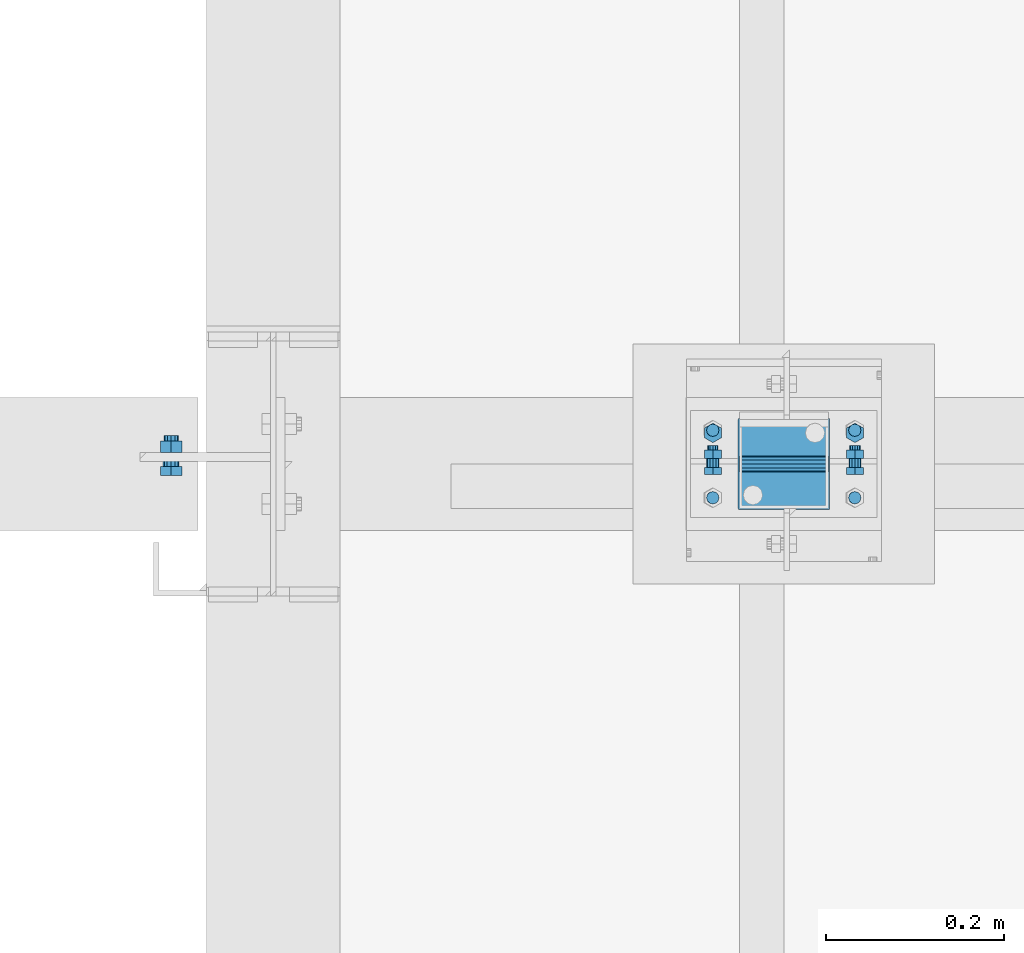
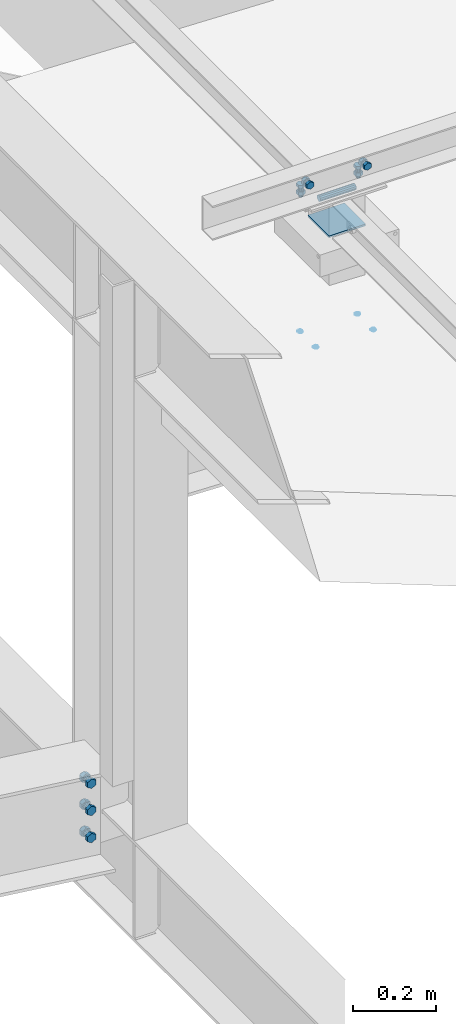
# One storey, part 325 of 3134: 6 mechanical fasteners, 4 elements without a shape of their own.
"""IFC2X3 building model written with IfcOpenShell, lengths in millimetres."""

import ifcopenshell
import ifcopenshell.guid

model = None  # the IFC model being written
_history = None  # IfcOwnerHistory: only IFC2X3 demands one
_inside = {}  # id of a spatial element -> (the spatial element, [elements in it])
_under = {}  # id of a project, library or spatial element -> (it, [spatial elements below it])
_declared = {}  # id of a project -> (the project, [libraries it declares])
_typed = {}  # id of a type object -> (the type object, [elements of that type])
_made_of = {}  # id of a material, layer set ... -> (it, [elements and type objects made of it])


def new_model(schema):
    """Start an empty IFC model of exactly this schema.

    Asked for "IFC4X3", IfcOpenShell would pick the latest addendum, in which some entities
    have other attributes; the version numbers below select the first issue.
    IFC2X3 requires an IfcOwnerHistory on every rooted entity: one is made here for all.
    """
    global model, _history
    if schema == "IFC4X3":
        model = ifcopenshell.file(schema_version=(4, 3, 0, 0))
    else:
        model = ifcopenshell.file(schema=schema)
    _inside.clear()
    _under.clear()
    _declared.clear()
    _typed.clear()
    _made_of.clear()
    _history = None
    if model.schema == "IFC2X3":
        org = make("IfcOrganization", Name="unknown")
        user = make(
            "IfcPersonAndOrganization",
            ThePerson=make("IfcPerson", FamilyName="unknown"),
            TheOrganization=org,
        )
        app = make(
            "IfcApplication",
            ApplicationDeveloper=org,
            Version="unknown",
            ApplicationFullName="unknown",
            ApplicationIdentifier="unknown",
        )
        _history = make(
            "IfcOwnerHistory",
            OwningUser=user,
            OwningApplication=app,
            ChangeAction="ADDED",
            CreationDate=0,
        )
    return model


def make(cls, **values):
    """One entity of the class cls with the attributes given. An attribute that is None is left unset."""
    return model.create_entity(
        cls, **{name: value for name, value in values.items() if value is not None}
    )


def rooted(cls, **values):
    """An entity with a GlobalId (a new one), such as an element, a storey or a relation."""
    return make(cls, GlobalId=ifcopenshell.guid.new(), OwnerHistory=_history, **values)


def si_unit(unit_type, name, prefix=None):
    """IfcSIUnit, for example si_unit("LENGTHUNIT", "METRE", prefix="MILLI")."""
    return make("IfcSIUnit", UnitType=unit_type, Prefix=prefix, Name=name)


def assignment(units):
    """IfcUnitAssignment: the units of a project."""
    return None if units is None else make("IfcUnitAssignment", Units=units)


def point(xyz):
    """IfcCartesianPoint."""
    return None if xyz is None else make("IfcCartesianPoint", Coordinates=xyz)


def direction(xyz):
    """IfcDirection."""
    return None if xyz is None else make("IfcDirection", DirectionRatios=xyz)


def frame(location, z_axis=None, x_axis=None):
    """IfcAxis2Placement3D, a coordinate frame: its origin and axes. An axis left out is left unset."""
    return make(
        "IfcAxis2Placement3D",
        Location=point(location),
        Axis=direction(z_axis),
        RefDirection=direction(x_axis),
    )


def origin_with_axes():
    """The frame at (0, 0, 0) with the z axis (0, 0, 1) and the x axis (1, 0, 0) written out."""
    return frame((0.0, 0.0, 0.0), z_axis=(0.0, 0.0, 1.0), x_axis=(1.0, 0.0, 0.0))


def place(relative_to, where):
    """IfcLocalPlacement: puts the frame where relative to a parent placement (None: the world)."""
    return make(
        "IfcLocalPlacement", PlacementRelTo=relative_to, RelativePlacement=where
    )


def context(
    kind, dimensions, precision=None, world=None, true_north=None, identifier=None
):
    """IfcGeometricRepresentationContext, for example the 3D "Model" context."""
    return make(
        "IfcGeometricRepresentationContext",
        ContextIdentifier=identifier,
        ContextType=kind,
        CoordinateSpaceDimension=dimensions,
        Precision=precision,
        WorldCoordinateSystem=world,
        TrueNorth=true_north,
    )


def subcontext(parent, identifier, kind, view, scale=None):
    """IfcGeometricRepresentationSubContext, for example "Body" below "Model"."""
    return make(
        "IfcGeometricRepresentationSubContext",
        ContextIdentifier=identifier,
        ContextType=kind,
        ParentContext=parent,
        TargetScale=scale,
        TargetView=view,
    )


def project(units=None, contexts=None):
    """IfcProject with its units and contexts."""
    return rooted(
        "IfcProject",
        Name="project",
        RepresentationContexts=contexts,
        UnitsInContext=assignment(units),
    )


def spatial(cls, under=None, at=None, **own):
    """A site, building, storey or space (cls), placed at a placement, below another one or the project."""
    s = rooted(cls, ObjectPlacement=at, **own)
    if under is not None:
        _under.setdefault(under.id(), (under, []))[1].append(s)
    return s


def faces_of(points, faces, orient=None, outer=None):
    """IfcFace entities. A face is a list of loops; a loop is a list of indices into points, from 0.

    orient and outer hold one flag for each loop. By default every Orientation is true, the
    first loop of a face is its IfcFaceOuterBound and the others are IfcFaceBound.
    """
    made = []
    for i, loops in enumerate(faces):
        bounds = []
        for j, loop in enumerate(loops):
            is_outer = j == 0 if outer is None else outer[i][j]
            bounds.append(
                make(
                    "IfcFaceOuterBound" if is_outer else "IfcFaceBound",
                    Bound=make("IfcPolyLoop", Polygon=[points[k] for k in loop]),
                    Orientation=True if orient is None else orient[i][j],
                )
            )
        made.append(make("IfcFace", Bounds=bounds))
    return made


def faceted_brep(points, faces, orient=None, outer=None, voids=None):
    """IfcFacetedBrep: a solid bounded by flat faces; with voids (closed shells), ...WithVoids."""
    shared = [point(p) for p in points]
    hull = make("IfcClosedShell", CfsFaces=faces_of(shared, faces, orient, outer))
    if voids is None:
        return make("IfcFacetedBrep", Outer=hull)
    return make(
        "IfcFacetedBrepWithVoids",
        Outer=hull,
        Voids=[
            make(cls, CfsFaces=faces_of(shared, fs, o, b)) for cls, fs, o, b in voids
        ],
    )


def shape(context_of_items, identifier, shape_type, items):
    """IfcShapeRepresentation: the items that make up one representation, for example the "Body"."""
    return make(
        "IfcShapeRepresentation",
        ContextOfItems=context_of_items,
        RepresentationIdentifier=identifier,
        RepresentationType=shape_type,
        Items=items,
    )


def source(mapping_origin, context_of_items, identifier, shape_type, items):
    """IfcRepresentationMap: a shape defined once, which mapped items show again and again."""
    return make(
        "IfcRepresentationMap",
        MappingOrigin=mapping_origin,
        MappedRepresentation=shape(context_of_items, identifier, shape_type, items),
    )


def transform(
    local_origin,
    x_axis=None,
    y_axis=None,
    z_axis=None,
    scale=None,
    scale2=None,
    scale3=None,
    uniform=True,
):
    """IfcCartesianTransformationOperator3D, or its non-uniform kind. x_axis, y_axis, z_axis: its Axis1, 2, 3."""
    if uniform:
        return make(
            "IfcCartesianTransformationOperator3D",
            Axis1=direction(x_axis),
            Axis2=direction(y_axis),
            LocalOrigin=point(local_origin),
            Scale=scale,
            Axis3=direction(z_axis),
        )
    return make(
        "IfcCartesianTransformationOperator3DnonUniform",
        Axis1=direction(x_axis),
        Axis2=direction(y_axis),
        LocalOrigin=point(local_origin),
        Scale=scale,
        Axis3=direction(z_axis),
        Scale2=scale2,
        Scale3=scale3,
    )


def mapped(mapping_source, mapping_target):
    """IfcMappedItem: shows the shape of a source again, moved by a transform."""
    return make(
        "IfcMappedItem", MappingSource=mapping_source, MappingTarget=mapping_target
    )


def material(Name=None, Category=None):
    """IfcMaterial."""
    return make("IfcMaterial", Name=Name, Category=Category)


def made_of(thing, what):
    """Note that an element or type object is made of a material, layer set ...; save() writes the relation."""
    if what is not None:
        _made_of.setdefault(what.id(), (what, []))[1].append(thing)
    return thing


def type_object(cls, material=None, **own):
    """A type object (cls), such as IfcWallType, which elements share."""
    return made_of(rooted(cls, **own), material)


def element(
    cls,
    number,
    at=None,
    inside=None,
    cuts=None,
    type_object=None,
    material=None,
    context=None,
    identifier="Body",
    shape_type=None,
    held_by="IfcProductDefinitionShape",
    body=None,
    shapes=None,
    **own,
):
    """One element of the class cls, such as IfcWall. Its Tag is "e" and its number.

    at: its placement. inside: the storey or other place that contains it. cuts: it is an
    opening in that element (IfcRelVoidsElement). A single representation is given by context,
    identifier, shape_type and body (its items); several are given by shapes. held_by: the class
    of the entity that holds the representations. save() writes the other relations.
    """
    e = rooted(cls, Tag="e%d" % number, ObjectPlacement=at, **own)
    if body is not None:
        shapes = [shape(context, identifier, shape_type, body)]
    if shapes is not None:
        e.Representation = make(held_by, Representations=shapes)
    if inside is not None:
        _inside.setdefault(inside.id(), (inside, []))[1].append(e)
    if cuts is not None:
        rooted(
            "IfcRelVoidsElement", RelatingBuildingElement=cuts, RelatedOpeningElement=e
        )
    if type_object is not None:
        _typed.setdefault(type_object.id(), (type_object, []))[1].append(e)
    return made_of(e, material)


def aggregate(whole, parts):
    """IfcRelAggregates: a whole, such as a stair, and the parts it consists of."""
    return rooted("IfcRelAggregates", RelatingObject=whole, RelatedObjects=parts)


def save(model, path):
    """Write the relations noted so far, then the file.

    IfcRelAggregates (storeys below a building ...), IfcRelContainedInSpatialStructure (elements
    in a storey), IfcRelDefinesByType, IfcRelAssociatesMaterial and IfcRelDeclares: one each for
    every whole, place, type object, material and project.
    """
    for whole, parts in _under.values():
        aggregate(whole, parts)
    for where, things in _inside.values():
        rooted(
            "IfcRelContainedInSpatialStructure",
            RelatedElements=things,
            RelatingStructure=where,
        )
    for kind, things in _typed.values():
        rooted("IfcRelDefinesByType", RelatedObjects=things, RelatingType=kind)
    for what, things in _made_of.values():
        rooted("IfcRelAssociatesMaterial", RelatedObjects=things, RelatingMaterial=what)
    for by, libraries in _declared.values():
        rooted("IfcRelDeclares", RelatingContext=by, RelatedDefinitions=libraries)
    model.write(path)


model = new_model("IFC2X3")

# Units and contexts
model_context = context("Model", 3, precision=1e-05, world=origin_with_axes())
body_context = subcontext(model_context, "Body", "Model", "MODEL_VIEW")
ifc_project = project(units=[si_unit("LENGTHUNIT", "METRE", prefix="MILLI"), si_unit("AREAUNIT", "SQUARE_METRE"), si_unit("VOLUMEUNIT", "CUBIC_METRE"), si_unit("MASSUNIT", "GRAM", prefix="KILO"), si_unit("TIMEUNIT", "SECOND"), si_unit("PLANEANGLEUNIT", "RADIAN"), si_unit("SOLIDANGLEUNIT", "STERADIAN"), si_unit("THERMODYNAMICTEMPERATUREUNIT", "DEGREE_CELSIUS"), si_unit("LUMINOUSINTENSITYUNIT", "LUMEN")], contexts=[model_context])

# Site, building, storey
site_placement = place(None, origin_with_axes())
site = spatial("IfcSite", under=ifc_project, at=site_placement, CompositionType="ELEMENT")
building_placement = place(site_placement, origin_with_axes())
building = spatial("IfcBuilding", under=site, at=building_placement, Name="Undefined", CompositionType="ELEMENT")
storey_placement = place(building_placement, origin_with_axes())
storey = spatial("IfcBuildingStorey", under=building, at=storey_placement, Name="Undefined", CompositionType="ELEMENT", Elevation=0.0)

# Assembly, mechanical fastener
assembly_1_placement = place(storey_placement, origin_with_axes())
assembly_1 = element("IfcElementAssembly", 1, at=assembly_1_placement, inside=storey, AssemblyPlace="NOTDEFINED", PredefinedType="RIGID_FRAME")
ifc_material_1 = material(Name="8.8")
mechanical_fastener_type = type_object("IfcMechanicalFastenerType", Name="Bolt assembly")
shared_shape_1 = source(origin_with_axes(), body_context, "Body", "Brep", [
    faceted_brep([(10.9696551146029, -14.0, 0.0), (5.48482755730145, -14.0, 9.5), (-5.48482755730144, -14.0, 9.5), (-10.9696551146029, -14.0, 1.34339530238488e-15), (-5.48482755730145, -14.0, -9.5), (5.48482755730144, -14.0, -9.50000000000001), (5.48482755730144, -6.0, -9.50000000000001), (-5.48482755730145, -6.0, -9.5), (-10.9696551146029, -6.0, 1.34339530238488e-15), (-5.48482755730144, -6.0, 9.5), (5.48482755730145, -6.0, 9.5), (10.9696551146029, -6.0, 0.0), (6.0, -6.0, 0.0), (5.19615242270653, -6.0, 3.00000000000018), (2.99999999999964, -6.0, 5.19615242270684), (-6.21801588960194e-13, -6.0, 6.0), (-3.00000000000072, -6.0, 5.19615242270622), (-5.19615242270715, -6.0, 2.9999999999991), (-6.0, -6.0, -1.24360317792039e-12), (-5.19615242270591, -6.0, -3.00000000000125), (-2.99999999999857, -6.0, -5.19615242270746), (1.85874342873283e-12, -6.0, -6.0), (3.00000000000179, -6.0, -5.1961524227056), (5.19615242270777, -6.0, -2.99999999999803), (5.19615242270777, 24.0, -2.99999999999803), (3.00000000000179, 24.0, -5.1961524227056), (1.85874342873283e-12, 24.0, -6.0), (-2.99999999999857, 24.0, -5.19615242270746), (-5.19615242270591, 24.0, -3.00000000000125), (-6.0, 24.0, -1.24360317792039e-12), (-5.19615242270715, 24.0, 2.9999999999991), (-3.00000000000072, 24.0, 5.19615242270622), (-6.21801588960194e-13, 24.0, 6.0), (2.99999999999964, 24.0, 5.19615242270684), (5.19615242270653, 24.0, 3.00000000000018), (6.0, 24.0, 0.0), (10.9696551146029, 6.00000000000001, 0.0), (5.48482755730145, 6.00000000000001, 9.5), (-5.48482755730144, 6.00000000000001, 9.5), (-10.9696551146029, 6.00000000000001, 1.34339530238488e-15), (-5.48482755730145, 6.00000000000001, -9.5), (5.48482755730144, 6.00000000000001, -9.50000000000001), (5.48482755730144, 16.0, -9.50000000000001), (-5.48482755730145, 16.0, -9.5), (-10.9696551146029, 16.0, 1.34339530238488e-15), (-5.48482755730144, 16.0, 9.5), (5.48482755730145, 16.0, 9.5), (10.9696551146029, 16.0, 0.0)], [[[0, 1, 2, 3, 4, 5]], [[6, 7, 8, 9, 10, 11]], [[0, 11, 10, 1]], [[1, 10, 9, 2]], [[2, 9, 8, 3]], [[3, 8, 7, 4]], [[4, 7, 6, 5]], [[5, 6, 11, 0]], [[12, 13, 14, 15, 16, 17, 18, 19, 20, 21, 22, 23]], [[24, 25, 26, 27, 28, 29, 30, 31, 32, 33, 34, 35]], [[12, 35, 34, 13]], [[13, 34, 33, 14]], [[14, 33, 32, 15]], [[15, 32, 31, 16]], [[16, 31, 30, 17]], [[17, 30, 29, 18]], [[18, 29, 28, 19]], [[19, 28, 27, 20]], [[20, 27, 26, 21]], [[21, 26, 25, 22]], [[22, 25, 24, 23]], [[23, 24, 35, 12]], [[36, 37, 38, 39, 40, 41]], [[42, 43, 44, 45, 46, 47]], [[36, 47, 46, 37]], [[37, 46, 45, 38]], [[38, 45, 44, 39]], [[39, 44, 43, 40]], [[40, 43, 42, 41]], [[41, 42, 47, 36]]]),
    faceted_brep([(7.0, -0.1, 0.0), (6.06217782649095, -0.1, 3.50000000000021), (3.49999999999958, -0.1, 6.06217782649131), (-7.25435187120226e-13, -0.1, 7.0), (-3.50000000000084, -0.1, 6.06217782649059), (-6.06217782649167, -0.1, 3.49999999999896), (-7.0, -0.1, -1.45087037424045e-12), (-6.06217782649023, -0.1, -3.50000000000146), (-3.49999999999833, -0.1, -6.06217782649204), (2.1685340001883e-12, -0.1, -7.0), (3.50000000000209, -0.1, -6.06217782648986), (6.0621778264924, -0.1, -3.4999999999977), (6.0621778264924, 6.00000000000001, -3.4999999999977), (3.50000000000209, 6.00000000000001, -6.06217782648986), (2.1685340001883e-12, 6.00000000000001, -7.0), (-3.49999999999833, 6.00000000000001, -6.06217782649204), (-6.06217782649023, 6.00000000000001, -3.50000000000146), (-7.0, 6.00000000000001, -1.45087037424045e-12), (-6.06217782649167, 6.00000000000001, 3.49999999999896), (-3.50000000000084, 6.00000000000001, 6.06217782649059), (-7.25435187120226e-13, 6.00000000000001, 7.0), (3.49999999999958, 6.00000000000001, 6.06217782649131), (6.06217782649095, 6.00000000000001, 3.50000000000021), (7.0, 6.00000000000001, 0.0), (7.0, -5.9, 0.0), (6.06217782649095, -5.9, 3.50000000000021), (3.49999999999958, -5.9, 6.06217782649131), (-7.25435187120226e-13, -5.9, 7.0), (-3.50000000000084, -5.9, 6.06217782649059), (-6.06217782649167, -5.9, 3.49999999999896), (-7.0, -5.9, -1.45087037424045e-12), (-6.06217782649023, -5.9, -3.50000000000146), (-3.49999999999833, -5.9, -6.06217782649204), (2.1685340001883e-12, -5.9, -7.0), (3.50000000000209, -5.9, -6.06217782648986), (6.0621778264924, -5.9, -3.4999999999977), (6.0621778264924, 0.0999999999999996, -3.4999999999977), (3.50000000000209, 0.0999999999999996, -6.06217782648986), (2.1685340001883e-12, 0.0999999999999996, -7.0), (-3.49999999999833, 0.0999999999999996, -6.06217782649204), (-6.06217782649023, 0.0999999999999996, -3.50000000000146), (-7.0, 0.0999999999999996, -1.45087037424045e-12), (-6.06217782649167, 0.0999999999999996, 3.49999999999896), (-3.50000000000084, 0.0999999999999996, 6.06217782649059), (-7.25435187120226e-13, 0.0999999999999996, 7.0), (3.49999999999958, 0.0999999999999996, 6.06217782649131), (6.06217782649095, 0.0999999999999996, 3.50000000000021), (7.0, 0.0999999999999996, 0.0)], [[[0, 1, 2, 3, 4, 5, 6, 7, 8, 9, 10, 11]], [[12, 13, 14, 15, 16, 17, 18, 19, 20, 21, 22, 23]], [[0, 23, 22, 1]], [[1, 22, 21, 2]], [[2, 21, 20, 3]], [[3, 20, 19, 4]], [[4, 19, 18, 5]], [[5, 18, 17, 6]], [[6, 17, 16, 7]], [[7, 16, 15, 8]], [[8, 15, 14, 9]], [[9, 14, 13, 10]], [[10, 13, 12, 11]], [[11, 12, 23, 0]], [[24, 25, 26, 27, 28, 29, 30, 31, 32, 33, 34, 35]], [[36, 37, 38, 39, 40, 41, 42, 43, 44, 45, 46, 47]], [[24, 47, 46, 25]], [[25, 46, 45, 26]], [[26, 45, 44, 27]], [[27, 44, 43, 28]], [[28, 43, 42, 29]], [[29, 42, 41, 30]], [[30, 41, 40, 31]], [[31, 40, 39, 32]], [[32, 39, 38, 33]], [[33, 38, 37, 34]], [[34, 37, 36, 35]], [[35, 36, 47, 24]]]),
])
mechanical_fastener_1_placement = place(assembly_1_placement, frame((68125.0, 12405.0, 5850.0), z_axis=(1.0, 0.0, 0.0), x_axis=(0.0, -1.0, 0.0)))
mechanical_fastener_1 = element("IfcMechanicalFastener", 2, at=mechanical_fastener_1_placement, type_object=mechanical_fastener_type, material=ifc_material_1, Name="Bolt assembly", NominalDiameter=12.0, NominalLength=30.0, context=body_context, shape_type="MappedRepresentation", body=[
    mapped(shared_shape_1, transform((0.0, -5.32963895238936e-10, -79.9999999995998))),
    mapped(shared_shape_1, transform((0.0, 5.3114490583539e-10, 79.9999999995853))),
])

assembly_2_placement = place(storey_placement, origin_with_axes())
assembly_2 = element("IfcElementAssembly", 3, at=assembly_2_placement, inside=storey, Name="300", AssemblyPlace="NOTDEFINED", PredefinedType="RIGID_FRAME")
shared_shape_2 = source(origin_with_axes(), body_context, "Body", "Brep", [
    faceted_brep([(13.856406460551, -13.0499999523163, 0.0), (6.92820323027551, -13.0499999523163, 12.0), (-6.92820323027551, -13.0499999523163, 12.0), (-13.856406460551, -13.0499999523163, 1.69692038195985e-15), (-6.92820323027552, -13.0499999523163, -12.0), (6.9282032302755, -13.0499999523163, -12.0), (6.9282032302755, -3.04999995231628, -12.0), (-6.92820323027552, -3.04999995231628, -12.0), (-13.856406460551, -3.04999995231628, 1.69692038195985e-15), (-6.92820323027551, -3.04999995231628, 12.0), (6.92820323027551, -3.04999995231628, 12.0), (13.856406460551, -3.04999995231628, 0.0), (8.0, -3.04999995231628, 0.0), (6.92820323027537, -3.04999995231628, 4.00000000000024), (3.99999999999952, -3.04999995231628, 6.92820323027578), (-8.29068785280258e-13, -3.04999995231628, 8.0), (-4.00000000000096, -3.04999995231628, 6.92820323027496), (-6.9282032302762, -3.04999995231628, 3.99999999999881), (-8.0, -3.04999995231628, -1.65813757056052e-12), (-6.92820323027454, -3.04999995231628, -4.00000000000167), (-3.99999999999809, -3.04999995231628, -6.92820323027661), (2.47832457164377e-12, -3.04999995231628, -8.0), (4.00000000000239, -3.04999995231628, -6.92820323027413), (6.92820323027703, -3.04999995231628, -3.99999999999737), (6.92820323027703, 31.9500000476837, -3.99999999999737), (4.00000000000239, 31.9500000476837, -6.92820323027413), (2.47832457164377e-12, 31.9500000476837, -8.0), (-3.99999999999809, 31.9500000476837, -6.92820323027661), (-6.92820323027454, 31.9500000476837, -4.00000000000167), (-8.0, 31.9500000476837, -1.65813757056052e-12), (-6.9282032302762, 31.9500000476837, 3.99999999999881), (-4.00000000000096, 31.9500000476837, 6.92820323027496), (-8.29068785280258e-13, 31.9500000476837, 8.0), (3.99999999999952, 31.9500000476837, 6.92820323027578), (6.92820323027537, 31.9500000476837, 4.00000000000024), (8.0, 31.9500000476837, 0.0), (13.856406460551, 13.0500000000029, 0.0), (6.92820323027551, 13.0500000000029, 12.0), (-6.92820323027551, 13.0500000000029, 12.0), (-13.856406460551, 13.0500000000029, 1.69692038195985e-15), (-6.92820323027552, 13.0500000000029, -12.0), (6.9282032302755, 13.0500000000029, -12.0), (6.9282032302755, 26.0500000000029, -12.0), (-6.92820323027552, 26.0500000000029, -12.0), (-13.856406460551, 26.0500000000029, 1.69692038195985e-15), (-6.92820323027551, 26.0500000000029, 12.0), (6.92820323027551, 26.0500000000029, 12.0), (13.856406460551, 26.0500000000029, 0.0)], [[[0, 1, 2, 3, 4, 5]], [[6, 7, 8, 9, 10, 11]], [[0, 11, 10, 1]], [[1, 10, 9, 2]], [[2, 9, 8, 3]], [[3, 8, 7, 4]], [[4, 7, 6, 5]], [[5, 6, 11, 0]], [[12, 13, 14, 15, 16, 17, 18, 19, 20, 21, 22, 23]], [[24, 25, 26, 27, 28, 29, 30, 31, 32, 33, 34, 35]], [[12, 35, 34, 13]], [[13, 34, 33, 14]], [[14, 33, 32, 15]], [[15, 32, 31, 16]], [[16, 31, 30, 17]], [[17, 30, 29, 18]], [[18, 29, 28, 19]], [[19, 28, 27, 20]], [[20, 27, 26, 21]], [[21, 26, 25, 22]], [[22, 25, 24, 23]], [[23, 24, 35, 12]], [[36, 37, 38, 39, 40, 41]], [[42, 43, 44, 45, 46, 47]], [[36, 47, 46, 37]], [[37, 46, 45, 38]], [[38, 45, 44, 39]], [[39, 44, 43, 40]], [[40, 43, 42, 41]], [[41, 42, 47, 36]]]),
    faceted_brep([(9.0, 2.95000000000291, 0.0), (7.79422863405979, 2.95000000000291, 4.50000000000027), (4.49999999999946, 2.95000000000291, 7.79422863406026), (-9.3270238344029e-13, 2.95000000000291, 9.0), (-4.50000000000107, 2.95000000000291, 7.79422863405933), (-7.79422863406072, 2.95000000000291, 4.49999999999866), (-9.0, 2.95000000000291, -1.86540476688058e-12), (-7.79422863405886, 2.95000000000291, -4.50000000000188), (-4.49999999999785, 2.95000000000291, -7.79422863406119), (2.78811514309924e-12, 2.95000000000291, -9.0), (4.50000000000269, 2.95000000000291, -7.7942286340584), (7.79422863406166, 2.95000000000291, -4.49999999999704), (7.79422863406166, 13.0500000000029, -4.49999999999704), (4.50000000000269, 13.0500000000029, -7.7942286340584), (2.78811514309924e-12, 13.0500000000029, -9.0), (-4.49999999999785, 13.0500000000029, -7.79422863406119), (-7.79422863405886, 13.0500000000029, -4.50000000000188), (-9.0, 13.0500000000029, -1.86540476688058e-12), (-7.79422863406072, 13.0500000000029, 4.49999999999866), (-4.50000000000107, 13.0500000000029, 7.79422863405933), (-9.3270238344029e-13, 13.0500000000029, 9.0), (4.49999999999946, 13.0500000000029, 7.79422863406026), (7.79422863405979, 13.0500000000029, 4.50000000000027), (9.0, 13.0500000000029, 0.0), (9.0, -2.94999995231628, 0.0), (7.79422863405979, -2.94999995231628, 4.50000000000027), (4.49999999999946, -2.94999995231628, 7.79422863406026), (-9.3270238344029e-13, -2.94999995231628, 9.0), (-4.50000000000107, -2.94999995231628, 7.79422863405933), (-7.79422863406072, -2.94999995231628, 4.49999999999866), (-9.0, -2.94999995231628, -1.86540476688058e-12), (-7.79422863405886, -2.94999995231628, -4.50000000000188), (-4.49999999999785, -2.94999995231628, -7.79422863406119), (2.78811514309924e-12, -2.94999995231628, -9.0), (4.50000000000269, -2.94999995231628, -7.7942286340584), (7.79422863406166, -2.94999995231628, -4.49999999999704), (7.79422863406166, 3.14999995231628, -4.49999999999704), (4.50000000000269, 3.14999995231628, -7.7942286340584), (2.78811514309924e-12, 3.14999995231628, -9.0), (-4.49999999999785, 3.14999995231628, -7.79422863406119), (-7.79422863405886, 3.14999995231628, -4.50000000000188), (-9.0, 3.14999995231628, -1.86540476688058e-12), (-7.79422863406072, 3.14999995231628, 4.49999999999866), (-4.50000000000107, 3.14999995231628, 7.79422863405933), (-9.3270238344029e-13, 3.14999995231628, 9.0), (4.49999999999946, 3.14999995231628, 7.79422863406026), (7.79422863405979, 3.14999995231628, 4.50000000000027), (9.0, 3.14999995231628, 0.0)], [[[0, 1, 2, 3, 4, 5, 6, 7, 8, 9, 10, 11]], [[12, 13, 14, 15, 16, 17, 18, 19, 20, 21, 22, 23]], [[0, 23, 22, 1]], [[1, 22, 21, 2]], [[2, 21, 20, 3]], [[3, 20, 19, 4]], [[4, 19, 18, 5]], [[5, 18, 17, 6]], [[6, 17, 16, 7]], [[7, 16, 15, 8]], [[8, 15, 14, 9]], [[9, 14, 13, 10]], [[10, 13, 12, 11]], [[11, 12, 23, 0]], [[24, 25, 26, 27, 28, 29, 30, 31, 32, 33, 34, 35]], [[36, 37, 38, 39, 40, 41, 42, 43, 44, 45, 46, 47]], [[24, 47, 46, 25]], [[25, 46, 45, 26]], [[26, 45, 44, 27]], [[27, 44, 43, 28]], [[28, 43, 42, 29]], [[29, 42, 41, 30]], [[30, 41, 40, 31]], [[31, 40, 39, 32]], [[32, 39, 38, 33]], [[33, 38, 37, 34]], [[34, 37, 36, 35]], [[35, 36, 47, 24]]]),
])
mechanical_fastener_2_placement = place(assembly_2_placement, frame((67435.0, 12370.0, 4337.44269270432), z_axis=(1.0, 0.0, 0.0), x_axis=(0.0, 0.0, -1.0)))
mechanical_fastener_2 = element("IfcMechanicalFastener", 4, at=mechanical_fastener_2_placement, type_object=mechanical_fastener_type, material=ifc_material_1, Name="Bolt assembly", NominalDiameter=16.0, NominalLength=35.0, context=body_context, shape_type="MappedRepresentation", body=[
    mapped(shared_shape_2, transform((0.0, 0.0, 0.0))),
    mapped(shared_shape_2, transform((80.0, 0.0, 0.0))),
    mapped(shared_shape_2, transform((160.0, 0.0, 0.0))),
])
aggregate(assembly_2, [mechanical_fastener_2])

assembly_3_placement = place(storey_placement, origin_with_axes())
assembly_3 = element("IfcElementAssembly", 5, at=assembly_3_placement, inside=storey, AssemblyPlace="NOTDEFINED", PredefinedType="RIGID_FRAME")
shared_shape_3 = source(origin_with_axes(), body_context, "Body", "Brep", [
    faceted_brep([(7.0, 13.0000253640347, 0.0), (6.06217782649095, 13.0000253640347, 3.50000000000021), (3.49999999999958, 13.0000253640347, 6.06217782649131), (-7.25435187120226e-13, 13.0000253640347, 7.0), (-3.50000000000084, 13.0000253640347, 6.06217782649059), (-6.06217782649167, 13.0000253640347, 3.49999999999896), (-7.0, 13.0000253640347, -1.45087037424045e-12), (-6.06217782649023, 13.0000253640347, -3.50000000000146), (-3.49999999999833, 13.0000253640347, -6.06217782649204), (2.1685340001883e-12, 13.0000253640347, -7.0), (3.50000000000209, 13.0000253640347, -6.06217782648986), (6.0621778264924, 13.0000253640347, -3.4999999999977), (6.0621778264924, 15.0999999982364, -3.4999999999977), (3.50000000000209, 15.0999999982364, -6.06217782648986), (2.1685340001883e-12, 15.0999999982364, -7.0), (-3.49999999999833, 15.0999999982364, -6.06217782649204), (-6.06217782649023, 15.0999999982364, -3.50000000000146), (-7.0, 15.0999999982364, -1.45087037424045e-12), (-6.06217782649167, 15.0999999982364, 3.49999999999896), (-3.50000000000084, 15.0999999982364, 6.06217782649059), (-7.25435187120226e-13, 15.0999999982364, 7.0), (3.49999999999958, 15.0999999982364, 6.06217782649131), (6.06217782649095, 15.0999999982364, 3.50000000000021), (7.0, 15.0999999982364, 0.0)], [[[0, 1, 2, 3, 4, 5, 6, 7, 8, 9, 10, 11]], [[12, 13, 14, 15, 16, 17, 18, 19, 20, 21, 22, 23]], [[0, 23, 22, 1]], [[1, 22, 21, 2]], [[2, 21, 20, 3]], [[3, 20, 19, 4]], [[4, 19, 18, 5]], [[5, 18, 17, 6]], [[6, 17, 16, 7]], [[7, 16, 15, 8]], [[8, 15, 14, 9]], [[9, 14, 13, 10]], [[10, 13, 12, 11]], [[11, 12, 23, 0]]]),
])
mechanical_fastener_3_placement = place(assembly_3_placement, frame((68124.3451187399, 12408.0, 5409.1772055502), z_axis=(-0.99951962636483, 0.0, 0.0309922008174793), x_axis=(0.0, -1.0, 0.0)))
mechanical_fastener_3 = element("IfcMechanicalFastener", 6, at=mechanical_fastener_3_placement, type_object=mechanical_fastener_type, material=ifc_material_1, Name="Bolt assembly", NominalDiameter=12.0, NominalLength=2.0, context=body_context, shape_type="MappedRepresentation", body=[
    mapped(shared_shape_3, transform((0.0, -5.32963895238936e-10, -79.9999999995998))),
    mapped(shared_shape_3, transform((76.0, -5.32963895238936e-10, -79.9999999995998))),
    mapped(shared_shape_3, transform((0.0, 5.3114490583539e-10, 79.9999999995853))),
    mapped(shared_shape_3, transform((76.0, 5.3114490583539e-10, 79.9999999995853))),
])
aggregate(assembly_3, [mechanical_fastener_3])

# Assembly, mechanical fasteners
assembly_4_placement = place(storey_placement, origin_with_axes())
assembly_4 = element("IfcElementAssembly", 7, at=assembly_4_placement, inside=storey, AssemblyPlace="NOTDEFINED", PredefinedType="RIGID_FRAME")
shared_shape_4 = source(origin_with_axes(), body_context, "Body", "Brep", [
    faceted_brep([(9.0, -50.0, 0.0), (7.79422863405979, -50.0, 4.50000000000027), (4.49999999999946, -50.0, 7.79422863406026), (-9.3270238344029e-13, -50.0, 9.0), (-4.50000000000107, -50.0, 7.79422863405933), (-7.79422863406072, -50.0, 4.49999999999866), (-9.0, -50.0, -1.86540476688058e-12), (-7.79422863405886, -50.0, -4.50000000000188), (-4.49999999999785, -50.0, -7.79422863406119), (2.78811514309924e-12, -50.0, -9.0), (4.50000000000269, -50.0, -7.7942286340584), (7.79422863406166, -50.0, -4.49999999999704), (7.79422863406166, 50.1, -4.49999999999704), (4.50000000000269, 50.1, -7.7942286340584), (2.78811514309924e-12, 50.1, -9.0), (-4.49999999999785, 50.1, -7.79422863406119), (-7.79422863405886, 50.1, -4.50000000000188), (-9.0, 50.1, -1.86540476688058e-12), (-7.79422863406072, 50.1, 4.49999999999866), (-4.50000000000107, 50.1, 7.79422863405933), (-9.3270238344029e-13, 50.1, 9.0), (4.49999999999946, 50.1, 7.79422863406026), (7.79422863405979, 50.1, 4.50000000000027), (9.0, 50.1, 0.0)], [[[0, 1, 2, 3, 4, 5, 6, 7, 8, 9, 10, 11]], [[12, 13, 14, 15, 16, 17, 18, 19, 20, 21, 22, 23]], [[0, 23, 22, 1]], [[1, 22, 21, 2]], [[2, 21, 20, 3]], [[3, 20, 19, 4]], [[4, 19, 18, 5]], [[5, 18, 17, 6]], [[6, 17, 16, 7]], [[7, 16, 15, 8]], [[8, 15, 14, 9]], [[9, 14, 13, 10]], [[10, 13, 12, 11]], [[11, 12, 23, 0]]]),
])
mechanical_fastener_4_placement = place(assembly_4_placement, frame((68125.0, 12370.0, 5830.0), z_axis=(0.0, 1.0, 0.0), x_axis=(0.0, 0.0, 1.0)))
mechanical_fastener_4 = element("IfcMechanicalFastener", 8, at=mechanical_fastener_4_placement, type_object=mechanical_fastener_type, material=ifc_material_1, Name="Bolt assembly", NominalDiameter=16.0, NominalLength=100.0, context=body_context, shape_type="MappedRepresentation", body=[
    mapped(shared_shape_4, transform((0.0, 0.0, 0.0))),
])
ifc_material_2 = material(Name="6.8")
shared_shape_5 = source(origin_with_axes(), body_context, "Body", "Brep", [
    faceted_brep([(51.5, 1.36424205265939e-12, 50.0), (51.3858192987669, 1.36424205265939e-12, 50.5740251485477), (51.0606601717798, 1.36424205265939e-12, 51.0606601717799), (50.5740251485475, 1.36424205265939e-12, 51.385819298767), (-50.0000000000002, 1.36424205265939e-12, 51.5), (-50.7500000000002, 1.36424205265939e-12, 51.2990381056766), (-51.2990381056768, 1.36424205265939e-12, 50.7499999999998), (-51.5, 1.36424205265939e-12, 49.9999999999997), (-51.5, 1.36424205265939e-12, -50.0000000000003), (-51.2990381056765, 1.36424205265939e-12, -50.7500000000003), (-50.7499999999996, 1.36424205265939e-12, -51.2990381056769), (-49.9999999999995, 1.36424205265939e-12, -51.5), (50.0000000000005, 1.36424205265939e-12, -51.5), (50.7500000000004, 1.36424205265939e-12, -51.2990381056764), (51.2990381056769, 1.36424205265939e-12, -50.7499999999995), (51.5, 1.36424205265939e-12, -49.9999999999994), (51.5, 5.10000000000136, -49.9999999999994), (51.2990381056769, 5.10000000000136, -50.7499999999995), (50.7500000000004, 5.10000000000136, -51.2990381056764), (50.0000000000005, 5.10000000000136, -51.5), (-49.9999999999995, 5.10000000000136, -51.5), (-50.7499999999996, 5.10000000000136, -51.2990381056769), (-51.2990381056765, 5.10000000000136, -50.7500000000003), (-51.5, 5.10000000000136, -50.0000000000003), (-51.5, 5.10000000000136, 49.9999999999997), (-51.2990381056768, 5.10000000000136, 50.7499999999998), (-50.7500000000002, 5.10000000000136, 51.2990381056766), (-50.0000000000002, 5.10000000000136, 51.5), (50.5740251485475, 5.10000000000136, 51.385819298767), (51.0606601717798, 5.10000000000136, 51.0606601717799), (51.3858192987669, 5.10000000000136, 50.5740251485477), (51.5, 5.10000000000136, 50.0)], [[[0, 1, 2, 3, 4, 5, 6, 7, 8, 9, 10, 11, 12, 13, 14, 15]], [[16, 17, 18, 19, 20, 21, 22, 23, 24, 25, 26, 27, 28, 29, 30, 31]], [[0, 31, 30, 1]], [[1, 30, 29, 2]], [[2, 29, 28, 3]], [[3, 28, 27, 4]], [[4, 27, 26, 5]], [[5, 26, 25, 6]], [[6, 25, 24, 7]], [[7, 24, 23, 8]], [[8, 23, 22, 9]], [[9, 22, 21, 10]], [[10, 21, 20, 11]], [[11, 20, 19, 12]], [[12, 19, 18, 13]], [[13, 18, 17, 14]], [[14, 17, 16, 15]], [[15, 16, 31, 0]]]),
])
mechanical_fastener_5_placement = place(assembly_4_placement, frame((68125.0, 12370.0, 5750.0), z_axis=(0.0, -1.0, 0.0), x_axis=(-1.0, 0.0, 0.0)))
mechanical_fastener_5 = element("IfcMechanicalFastener", 9, at=mechanical_fastener_5_placement, type_object=mechanical_fastener_type, material=ifc_material_2, Name="Bolt assembly", NominalDiameter=10.0, NominalLength=5.0, context=body_context, shape_type="MappedRepresentation", body=[
    mapped(shared_shape_5, transform((0.0, 0.0, 0.0))),
])
aggregate(assembly_4, [mechanical_fastener_4, mechanical_fastener_5])

# Mechanical fastener
shared_shape_6 = source(origin_with_axes(), body_context, "Body", "Brep", [
    faceted_brep([(10.9696551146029, -12.0, 0.0), (5.48482755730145, -12.0, 9.5), (-5.48482755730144, -12.0, 9.5), (-10.9696551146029, -12.0, 1.34339530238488e-15), (-5.48482755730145, -12.0, -9.5), (5.48482755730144, -12.0, -9.50000000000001), (5.48482755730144, -4.0, -9.50000000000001), (-5.48482755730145, -4.0, -9.5), (-10.9696551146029, -4.0, 1.34339530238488e-15), (-5.48482755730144, -4.0, 9.5), (5.48482755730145, -4.0, 9.5), (10.9696551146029, -4.0, 0.0), (6.0, -4.0, 0.0), (5.19615242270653, -4.0, 3.00000000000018), (2.99999999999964, -4.0, 5.19615242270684), (-6.21801588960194e-13, -4.0, 6.0), (-3.00000000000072, -4.0, 5.19615242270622), (-5.19615242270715, -4.0, 2.9999999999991), (-6.0, -4.0, -1.24360317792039e-12), (-5.19615242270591, -4.0, -3.00000000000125), (-2.99999999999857, -4.0, -5.19615242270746), (1.85874342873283e-12, -4.0, -6.0), (3.00000000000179, -4.0, -5.1961524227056), (5.19615242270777, -4.0, -2.99999999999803), (5.19615242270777, 21.0, -2.99999999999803), (3.00000000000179, 21.0, -5.1961524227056), (1.85874342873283e-12, 21.0, -6.0), (-2.99999999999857, 21.0, -5.19615242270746), (-5.19615242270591, 21.0, -3.00000000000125), (-6.0, 21.0, -1.24360317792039e-12), (-5.19615242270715, 21.0, 2.9999999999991), (-3.00000000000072, 21.0, 5.19615242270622), (-6.21801588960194e-13, 21.0, 6.0), (2.99999999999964, 21.0, 5.19615242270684), (5.19615242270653, 21.0, 3.00000000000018), (6.0, 21.0, 0.0), (10.9696551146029, 6.00000000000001, 0.0), (5.48482755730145, 6.00000000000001, 9.5), (-5.48482755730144, 6.00000000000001, 9.5), (-10.9696551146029, 6.00000000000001, 1.34339530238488e-15), (-5.48482755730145, 6.00000000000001, -9.5), (5.48482755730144, 6.00000000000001, -9.50000000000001), (5.48482755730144, 16.0, -9.50000000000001), (-5.48482755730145, 16.0, -9.5), (-10.9696551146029, 16.0, 1.34339530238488e-15), (-5.48482755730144, 16.0, 9.5), (5.48482755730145, 16.0, 9.5), (10.9696551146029, 16.0, 0.0)], [[[0, 1, 2, 3, 4, 5]], [[6, 7, 8, 9, 10, 11]], [[0, 11, 10, 1]], [[1, 10, 9, 2]], [[2, 9, 8, 3]], [[3, 8, 7, 4]], [[4, 7, 6, 5]], [[5, 6, 11, 0]], [[12, 13, 14, 15, 16, 17, 18, 19, 20, 21, 22, 23]], [[24, 25, 26, 27, 28, 29, 30, 31, 32, 33, 34, 35]], [[12, 35, 34, 13]], [[13, 34, 33, 14]], [[14, 33, 32, 15]], [[15, 32, 31, 16]], [[16, 31, 30, 17]], [[17, 30, 29, 18]], [[18, 29, 28, 19]], [[19, 28, 27, 20]], [[20, 27, 26, 21]], [[21, 26, 25, 22]], [[22, 25, 24, 23]], [[23, 24, 35, 12]], [[36, 37, 38, 39, 40, 41]], [[42, 43, 44, 45, 46, 47]], [[36, 47, 46, 37]], [[37, 46, 45, 38]], [[38, 45, 44, 39]], [[39, 44, 43, 40]], [[40, 43, 42, 41]], [[41, 42, 47, 36]]]),
    faceted_brep([(7.0, -3.9, 0.0), (6.06217782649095, -3.9, 3.50000000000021), (3.49999999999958, -3.9, 6.06217782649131), (-7.25435187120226e-13, -3.9, 7.0), (-3.50000000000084, -3.9, 6.06217782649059), (-6.06217782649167, -3.9, 3.49999999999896), (-7.0, -3.9, -1.45087037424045e-12), (-6.06217782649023, -3.9, -3.50000000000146), (-3.49999999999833, -3.9, -6.06217782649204), (2.1685340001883e-12, -3.9, -7.0), (3.50000000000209, -3.9, -6.06217782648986), (6.0621778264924, -3.9, -3.4999999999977), (6.0621778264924, 0.0999999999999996, -3.4999999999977), (3.50000000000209, 0.0999999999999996, -6.06217782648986), (2.1685340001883e-12, 0.0999999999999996, -7.0), (-3.49999999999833, 0.0999999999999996, -6.06217782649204), (-6.06217782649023, 0.0999999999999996, -3.50000000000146), (-7.0, 0.0999999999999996, -1.45087037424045e-12), (-6.06217782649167, 0.0999999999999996, 3.49999999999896), (-3.50000000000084, 0.0999999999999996, 6.06217782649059), (-7.25435187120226e-13, 0.0999999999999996, 7.0), (3.49999999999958, 0.0999999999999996, 6.06217782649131), (6.06217782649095, 0.0999999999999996, 3.50000000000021), (7.0, 0.0999999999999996, 0.0), (7.0, -0.1, 0.0), (6.06217782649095, -0.1, 3.50000000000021), (3.49999999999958, -0.1, 6.06217782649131), (-7.25435187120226e-13, -0.1, 7.0), (-3.50000000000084, -0.1, 6.06217782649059), (-6.06217782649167, -0.1, 3.49999999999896), (-7.0, -0.1, -1.45087037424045e-12), (-6.06217782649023, -0.1, -3.50000000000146), (-3.49999999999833, -0.1, -6.06217782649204), (2.1685340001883e-12, -0.1, -7.0), (3.50000000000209, -0.1, -6.06217782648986), (6.0621778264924, -0.1, -3.4999999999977), (6.0621778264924, 6.00000000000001, -3.4999999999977), (3.50000000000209, 6.00000000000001, -6.06217782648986), (2.1685340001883e-12, 6.00000000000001, -7.0), (-3.49999999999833, 6.00000000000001, -6.06217782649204), (-6.06217782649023, 6.00000000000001, -3.50000000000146), (-7.0, 6.00000000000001, -1.45087037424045e-12), (-6.06217782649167, 6.00000000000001, 3.49999999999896), (-3.50000000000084, 6.00000000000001, 6.06217782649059), (-7.25435187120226e-13, 6.00000000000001, 7.0), (3.49999999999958, 6.00000000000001, 6.06217782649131), (6.06217782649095, 6.00000000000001, 3.50000000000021), (7.0, 6.00000000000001, 0.0)], [[[0, 1, 2, 3, 4, 5, 6, 7, 8, 9, 10, 11]], [[12, 13, 14, 15, 16, 17, 18, 19, 20, 21, 22, 23]], [[0, 23, 22, 1]], [[1, 22, 21, 2]], [[2, 21, 20, 3]], [[3, 20, 19, 4]], [[4, 19, 18, 5]], [[5, 18, 17, 6]], [[6, 17, 16, 7]], [[7, 16, 15, 8]], [[8, 15, 14, 9]], [[9, 14, 13, 10]], [[10, 13, 12, 11]], [[11, 12, 23, 0]], [[24, 25, 26, 27, 28, 29, 30, 31, 32, 33, 34, 35]], [[36, 37, 38, 39, 40, 41, 42, 43, 44, 45, 46, 47]], [[24, 47, 46, 25]], [[25, 46, 45, 26]], [[26, 45, 44, 27]], [[27, 44, 43, 28]], [[28, 43, 42, 29]], [[29, 42, 41, 30]], [[30, 41, 40, 31]], [[31, 40, 39, 32]], [[32, 39, 38, 33]], [[33, 38, 37, 34]], [[34, 37, 36, 35]], [[35, 36, 47, 24]]]),
])
mechanical_fastener_6_placement = place(assembly_1_placement, frame((68125.0, 12370.0, 5885.0), z_axis=(1.0, 0.0, 0.0), x_axis=(0.0, 0.0, -1.0)))
mechanical_fastener_6 = element("IfcMechanicalFastener", 10, at=mechanical_fastener_6_placement, type_object=mechanical_fastener_type, material=ifc_material_1, Name="Bolt assembly", NominalDiameter=12.0, NominalLength=25.0, context=body_context, shape_type="MappedRepresentation", body=[
    mapped(shared_shape_6, transform((0.0, -5.32963895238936e-10, -79.9999999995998))),
    mapped(shared_shape_6, transform((0.0, 5.3114490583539e-10, 79.9999999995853))),
])

aggregate(assembly_1, [mechanical_fastener_6, mechanical_fastener_1])

save(model, "model.ifc")
